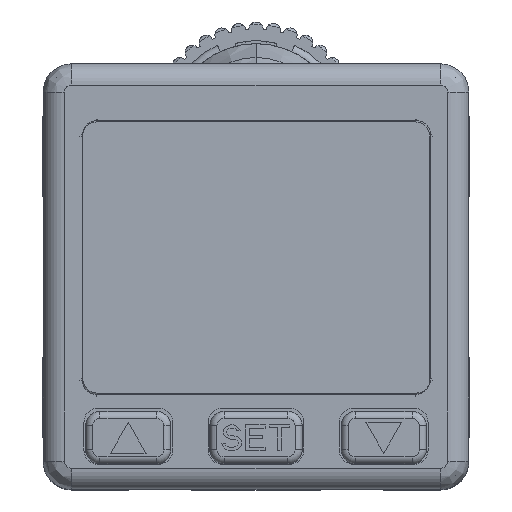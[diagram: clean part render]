
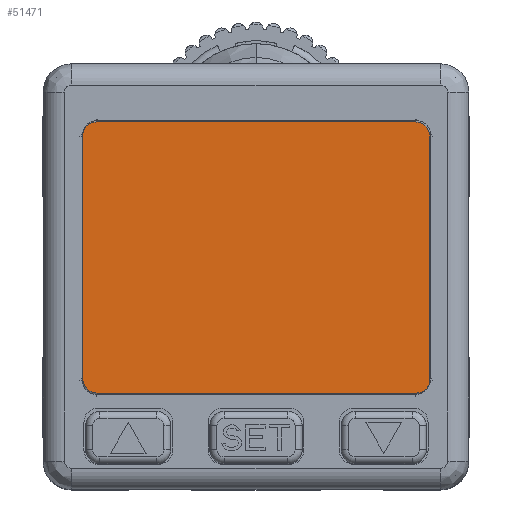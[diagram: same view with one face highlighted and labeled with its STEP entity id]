
A CAD part, top view. The second image highlights one B-rep face of the part: STEP entity #51471.
In plain terms, the highlighted planar face has unit normal (0, 0, 1).
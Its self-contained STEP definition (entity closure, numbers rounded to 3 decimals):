
#4051=CARTESIAN_POINT('',(11.3,10.,24.97));
#4052=DIRECTION('',(0.,0.,1.));
#4053=DIRECTION('',(1.,0.,0.));
#4054=AXIS2_PLACEMENT_3D('',#4051,#4052,#4053);
#4056=DIRECTION('',(0.,1.,0.));
#4057=VECTOR('',#4056,17.2);
#4058=CARTESIAN_POINT('',(12.3,-7.2,24.97));
#4059=LINE('',#4058,#4057);
#4060=CARTESIAN_POINT('',(11.3,-7.2,24.97));
#4061=DIRECTION('',(0.,0.,1.));
#4062=DIRECTION('',(0.,-1.,0.));
#4063=AXIS2_PLACEMENT_3D('',#4060,#4061,#4062);
#4065=DIRECTION('',(1.,0.,0.));
#4066=VECTOR('',#4065,22.5);
#4067=CARTESIAN_POINT('',(-11.2,-8.2,24.97));
#4068=LINE('',#4067,#4066);
#4069=CARTESIAN_POINT('',(-11.2,-7.2,24.97));
#4070=DIRECTION('',(0.,0.,1.));
#4071=DIRECTION('',(-1.,0.,0.));
#4072=AXIS2_PLACEMENT_3D('',#4069,#4070,#4071);
#4074=DIRECTION('',(0.,-1.,0.));
#4075=VECTOR('',#4074,17.2);
#4076=CARTESIAN_POINT('',(-12.2,10.,24.97));
#4077=LINE('',#4076,#4075);
#4078=CARTESIAN_POINT('',(-11.2,10.,24.97));
#4079=DIRECTION('',(0.,0.,1.));
#4080=DIRECTION('',(0.,1.,0.));
#4081=AXIS2_PLACEMENT_3D('',#4078,#4079,#4080);
#4083=DIRECTION('',(-1.,0.,0.));
#4084=VECTOR('',#4083,22.5);
#4085=CARTESIAN_POINT('',(11.3,11.,24.97));
#4086=LINE('',#4085,#4084);
#42929=CARTESIAN_POINT('',(12.3,10.,24.97));
#42930=CARTESIAN_POINT('',(11.3,11.,24.97));
#42931=VERTEX_POINT('',#42929);
#42932=VERTEX_POINT('',#42930);
#42933=CARTESIAN_POINT('',(-11.2,11.,24.97));
#42934=VERTEX_POINT('',#42933);
#42935=CARTESIAN_POINT('',(-12.2,10.,24.97));
#42936=VERTEX_POINT('',#42935);
#42937=CARTESIAN_POINT('',(-12.2,-7.2,24.97));
#42938=VERTEX_POINT('',#42937);
#42939=CARTESIAN_POINT('',(-11.2,-8.2,24.97));
#42940=VERTEX_POINT('',#42939);
#42941=CARTESIAN_POINT('',(11.3,-8.2,24.97));
#42942=VERTEX_POINT('',#42941);
#42943=CARTESIAN_POINT('',(12.3,-7.2,24.97));
#42944=VERTEX_POINT('',#42943);
#51456=CARTESIAN_POINT('',(0.05,2.6,24.97));
#51457=DIRECTION('',(0.,0.,1.));
#51458=DIRECTION('',(1.,0.,0.));
#51459=AXIS2_PLACEMENT_3D('',#51456,#51457,#51458);
#51460=PLANE('',#51459);
#51461=ORIENTED_EDGE('',*,*,#51352,.F.);
#51462=ORIENTED_EDGE('',*,*,#51367,.F.);
#51463=ORIENTED_EDGE('',*,*,#51381,.F.);
#51464=ORIENTED_EDGE('',*,*,#51395,.F.);
#51465=ORIENTED_EDGE('',*,*,#51409,.F.);
#51466=ORIENTED_EDGE('',*,*,#51423,.F.);
#51467=ORIENTED_EDGE('',*,*,#51437,.F.);
#51468=ORIENTED_EDGE('',*,*,#51450,.F.);
#51469=EDGE_LOOP('',(#51461,#51462,#51463,#51464,#51465,#51466,#51467,#51468));
#51470=FACE_OUTER_BOUND('',#51469,.F.);
#51471=ADVANCED_FACE('',(#51470),#51460,.T.);
#4055=CIRCLE('',#4054,1.);
#4064=CIRCLE('',#4063,1.);
#4073=CIRCLE('',#4072,1.);
#4082=CIRCLE('',#4081,1.);
#51352=EDGE_CURVE('',#42931,#42932,#4055,.T.);
#51367=EDGE_CURVE('',#42944,#42931,#4059,.T.);
#51381=EDGE_CURVE('',#42942,#42944,#4064,.T.);
#51395=EDGE_CURVE('',#42940,#42942,#4068,.T.);
#51409=EDGE_CURVE('',#42938,#42940,#4073,.T.);
#51423=EDGE_CURVE('',#42936,#42938,#4077,.T.);
#51437=EDGE_CURVE('',#42934,#42936,#4082,.T.);
#51450=EDGE_CURVE('',#42932,#42934,#4086,.T.);
